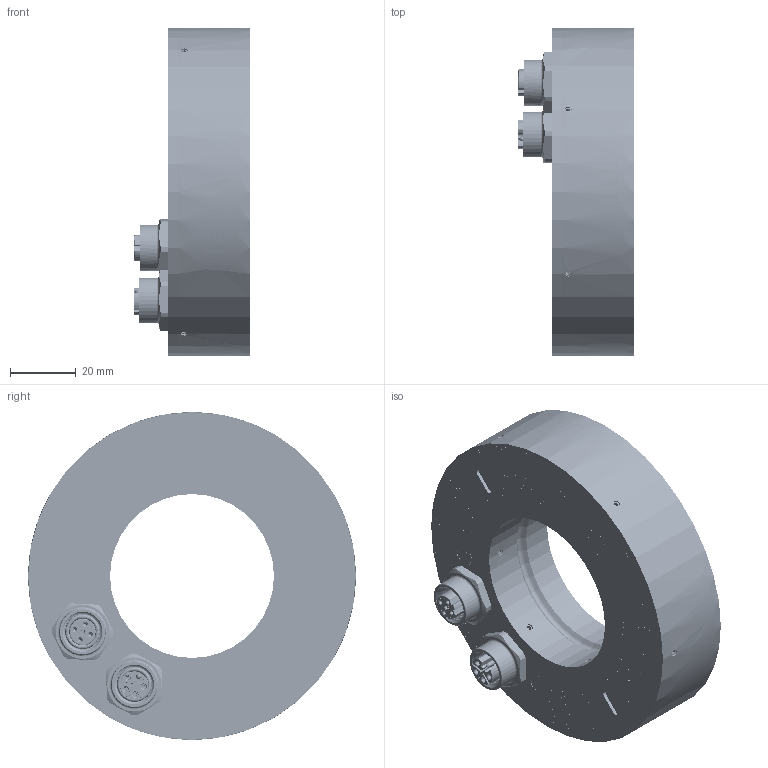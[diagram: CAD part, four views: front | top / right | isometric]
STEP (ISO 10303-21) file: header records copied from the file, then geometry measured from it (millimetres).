
FILE_DESCRIPTION (( 'STEP AP203' ), '1' );
FILE_NAME ('K0E011421_IC-REMOTE F 100_50_zum_Versenden.STEP', '2023-12-20T14:54:52', ( '' ), ( '' ), 'SwSTEP 2.0', 'SolidWorks 2023', '' );
FILE_SCHEMA (( 'CONFIG_CONTROL_DESIGN' ));
Length unit declared in the file: millimetre
Products named in the file (1): K0E011421_IC-REMOTE F 100_50_zum_Versenden
Bounding box: 35.34 x 100 x 100 mm (x, y, z)
Surface area: 63894.9 mm2 (no closed solid volume)
Topology: 0 solids, 54 shells, 6357 faces, 18026 edges, 12334 vertices
Faces by surface type: plane 3494, bspline 2086, cylinder 508, cone 179, torus 90
Entity records: 319007 total; most frequent: CARTESIAN_POINT 168216, ORIENTED_EDGE 35342, DIRECTION 22892, EDGE_CURVE 18014, VERTEX_POINT 12334, VECTOR 11572, LINE 11572, EDGE_LOOP 7095
